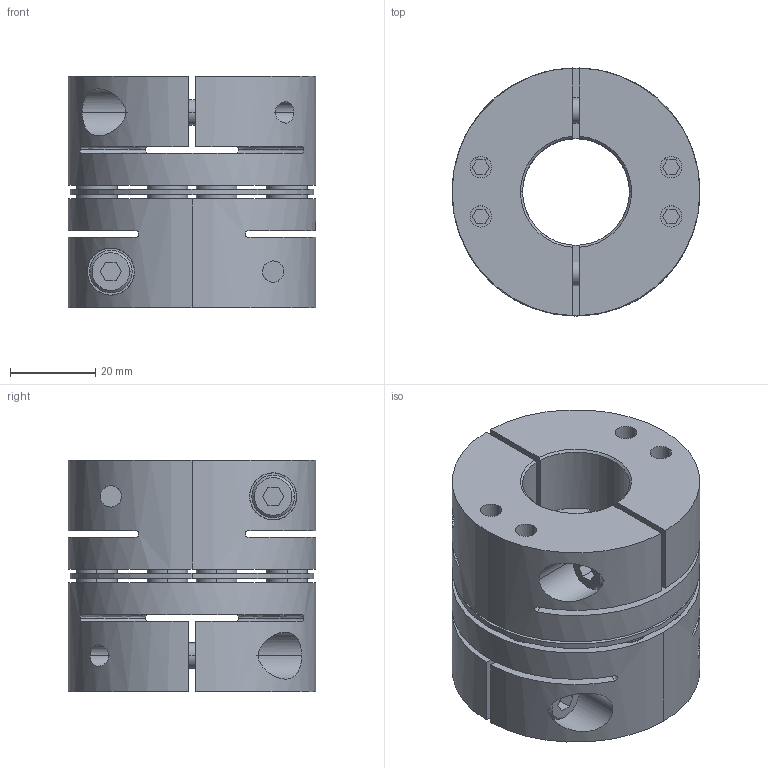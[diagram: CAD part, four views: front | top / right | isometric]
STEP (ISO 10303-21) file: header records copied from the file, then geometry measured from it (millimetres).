
FILE_DESCRIPTION((''),'2;1');
FILE_NAME('TAS-58C-25×25.stp','2022-11-14T22:26:04',(''),(''),'AutoCAD STEP 2000i','AutoCAD 2000i',', , ');
FILE_SCHEMA(('CONFIG_CONTROL_DESIGN'));
Length unit declared in the file: millimetre
Products named in the file (7): TAS-58C-22×22; 忣兜1; TA58C-22-2; CAP-M6×20; TA58C-22; TA58C-12-2; TA58C-12
Assembly tree (9 placements, depth 3):
  TAS-58C-22×22
    忣兜1
    TA58C-22-2
      CAP-M6×20
    TA58C-22
      CAP-M6×20
    TA58C-12-2
      CAP-M6×20
    TA58C-12
      CAP-M6×20
Bounding box: 58 x 58 x 54.25 mm (x, y, z)
Volume: 98295.4 mm3; surface area: 40616 mm2
Topology: 1 solids, 1 shells, 360 faces, 903 edges, 645 vertices
Faces by surface type: plane 160, cylinder 148, cone 36, bspline 16
Entity records: 12875 total; most frequent: CARTESIAN_POINT 3843, DIRECTION 1936, ORIENTED_EDGE 1720, EDGE_CURVE 860, AXIS2_PLACEMENT_3D 735, VERTEX_POINT 564, VECTOR 466, LINE 466
